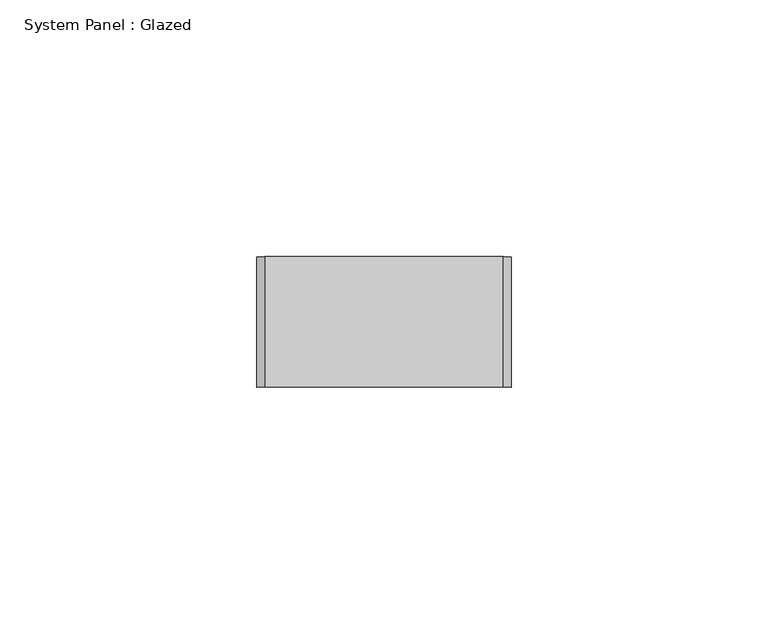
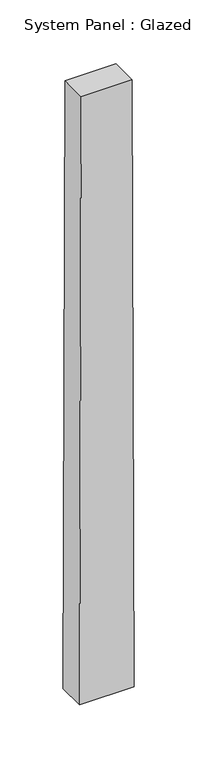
"""IFC4 building model written with IfcOpenShell, lengths in millimetres: plate geometry, System Panel : Glazed."""

from ifc_helpers import new_model, si_unit, frame, origin, place, context, project, spatial, polyline, outline, extrude, source, transform, mapped, element, save


def system_panel_glazed_3ffe7a12(model_context):
    return source(origin(), model_context, "Body", "SweptSolid", [
        extrude(outline(polyline([(0.0, -24.7889522), (0.0, 24.7889522), (584.197945, 23.2720439), (584.197945, -23.2720439), (0.0, -24.7889522)])), frame((0.0, 19.05, 0.0), z_axis=(0.0, 1.0, 0.0), x_axis=(0.0, 0.0, 1.0)), (0.0, 0.0, 1.0), 25.4),
    ])


if __name__ == "__main__":
    model = new_model("IFC4")
    model_context = context("Model", 3, world=origin())
    ifc_project = project(units=[si_unit("LENGTHUNIT", "METRE", prefix="MILLI")], contexts=[model_context])
    site = spatial("IfcSite", under=ifc_project)
    building = spatial("IfcBuilding", under=site)
    placement = place(None, origin())
    system_panel_glazed_shape = system_panel_glazed_3ffe7a12(model_context)
    element("IfcPlate", 1, ObjectType="System Panel : Glazed", at=placement, inside=building, context=model_context, shape_type="MappedRepresentation", body=[
        mapped(system_panel_glazed_shape, transform((0.0, 0.0, 0.0), x_axis=(1.0, 0.0, 0.0), y_axis=(0.0, 1.0, 0.0), z_axis=(0.0, 0.0, 1.0))),
    ])
    save(model, "model.ifc")
